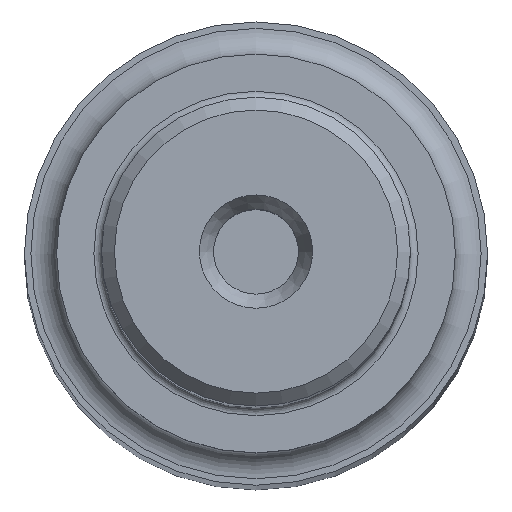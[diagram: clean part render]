
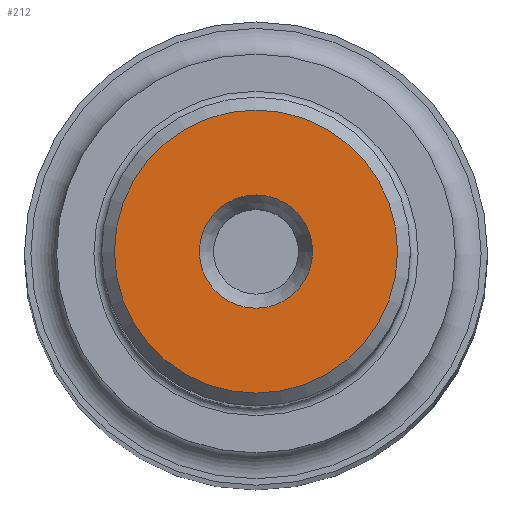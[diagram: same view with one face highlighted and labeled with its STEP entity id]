
A CAD part, top view. The second image highlights one B-rep face of the part: STEP entity #212.
In plain terms, the highlighted planar face has unit normal (0, 0, 1).
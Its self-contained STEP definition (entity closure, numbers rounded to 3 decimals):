
#94 = CONICAL_SURFACE('',#95,6.,0.785);
#95 = AXIS2_PLACEMENT_3D('',#96,#97,#98);
#96 = CARTESIAN_POINT('',(0.,0.,210.5));
#97 = DIRECTION('',(-0.,-0.,-1.));
#98 = DIRECTION('',(1.,0.,0.));
#110 = VERTEX_POINT('',#111);
#111 = CARTESIAN_POINT('',(5.5,0.,211.));
#132 = EDGE_CURVE('',#110,#110,#133,.T.);
#133 = SURFACE_CURVE('',#134,(#139,#146),.PCURVE_S1.);
#134 = CIRCLE('',#135,5.5);
#135 = AXIS2_PLACEMENT_3D('',#136,#137,#138);
#136 = CARTESIAN_POINT('',(0.,0.,211.));
#137 = DIRECTION('',(0.,0.,1.));
#138 = DIRECTION('',(1.,0.,-0.));
#139 = PCURVE('',#94,#140);
#140 = DEFINITIONAL_REPRESENTATION('',(#141),#145);
#141 = LINE('',#142,#143);
#142 = CARTESIAN_POINT('',(-0.,-0.5));
#143 = VECTOR('',#144,1.);
#144 = DIRECTION('',(-1.,-0.));
#145 = ( GEOMETRIC_REPRESENTATION_CONTEXT(2) 
PARAMETRIC_REPRESENTATION_CONTEXT() REPRESENTATION_CONTEXT('2D SPACE',''
  ) );
#146 = PCURVE('',#147,#152);
#147 = PLANE('',#148);
#148 = AXIS2_PLACEMENT_3D('',#149,#150,#151);
#149 = CARTESIAN_POINT('',(0.,0.,211.));
#150 = DIRECTION('',(0.,0.,1.));
#151 = DIRECTION('',(1.,0.,-0.));
#152 = DEFINITIONAL_REPRESENTATION('',(#153),#157);
#153 = CIRCLE('',#154,5.5);
#154 = AXIS2_PLACEMENT_2D('',#155,#156);
#155 = CARTESIAN_POINT('',(0.,0.));
#156 = DIRECTION('',(1.,0.));
#157 = ( GEOMETRIC_REPRESENTATION_CONTEXT(2) 
PARAMETRIC_REPRESENTATION_CONTEXT() REPRESENTATION_CONTEXT('2D SPACE',''
  ) );
#212 = ADVANCED_FACE('',(#213,#216),#147,.T.);
#213 = FACE_BOUND('',#214,.T.);
#214 = EDGE_LOOP('',(#215));
#215 = ORIENTED_EDGE('',*,*,#132,.T.);
#216 = FACE_BOUND('',#217,.T.);
#217 = EDGE_LOOP('',(#218));
#218 = ORIENTED_EDGE('',*,*,#219,.F.);
#219 = EDGE_CURVE('',#220,#220,#222,.T.);
#220 = VERTEX_POINT('',#221);
#221 = CARTESIAN_POINT('',(2.2,0.,211.));
#222 = SURFACE_CURVE('',#223,(#228,#235),.PCURVE_S1.);
#223 = CIRCLE('',#224,2.2);
#224 = AXIS2_PLACEMENT_3D('',#225,#226,#227);
#225 = CARTESIAN_POINT('',(0.,0.,211.));
#226 = DIRECTION('',(0.,0.,1.));
#227 = DIRECTION('',(1.,0.,-0.));
#228 = PCURVE('',#147,#229);
#229 = DEFINITIONAL_REPRESENTATION('',(#230),#234);
#230 = CIRCLE('',#231,2.2);
#231 = AXIS2_PLACEMENT_2D('',#232,#233);
#232 = CARTESIAN_POINT('',(0.,0.));
#233 = DIRECTION('',(1.,0.));
#234 = ( GEOMETRIC_REPRESENTATION_CONTEXT(2) 
PARAMETRIC_REPRESENTATION_CONTEXT() REPRESENTATION_CONTEXT('2D SPACE',''
  ) );
#235 = PCURVE('',#236,#241);
#236 = CONICAL_SURFACE('',#237,2.2,0.525);
#237 = AXIS2_PLACEMENT_3D('',#238,#239,#240);
#238 = CARTESIAN_POINT('',(0.,0.,211.));
#239 = DIRECTION('',(0.,0.,1.));
#240 = DIRECTION('',(1.,0.,0.));
#241 = DEFINITIONAL_REPRESENTATION('',(#242),#246);
#242 = LINE('',#243,#244);
#243 = CARTESIAN_POINT('',(0.,-0.));
#244 = VECTOR('',#245,1.);
#245 = DIRECTION('',(1.,-0.));
#246 = ( GEOMETRIC_REPRESENTATION_CONTEXT(2) 
PARAMETRIC_REPRESENTATION_CONTEXT() REPRESENTATION_CONTEXT('2D SPACE',''
  ) );
